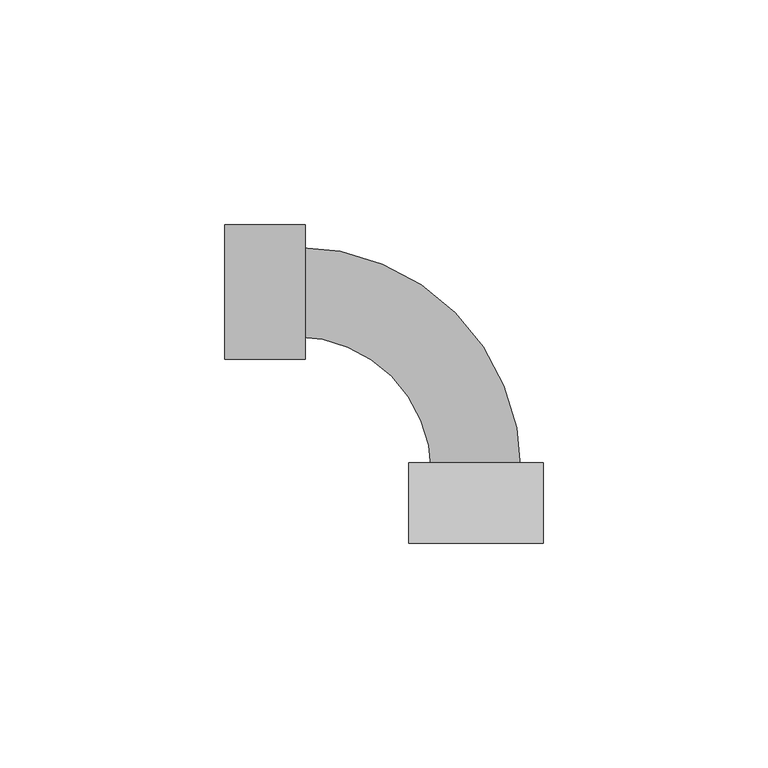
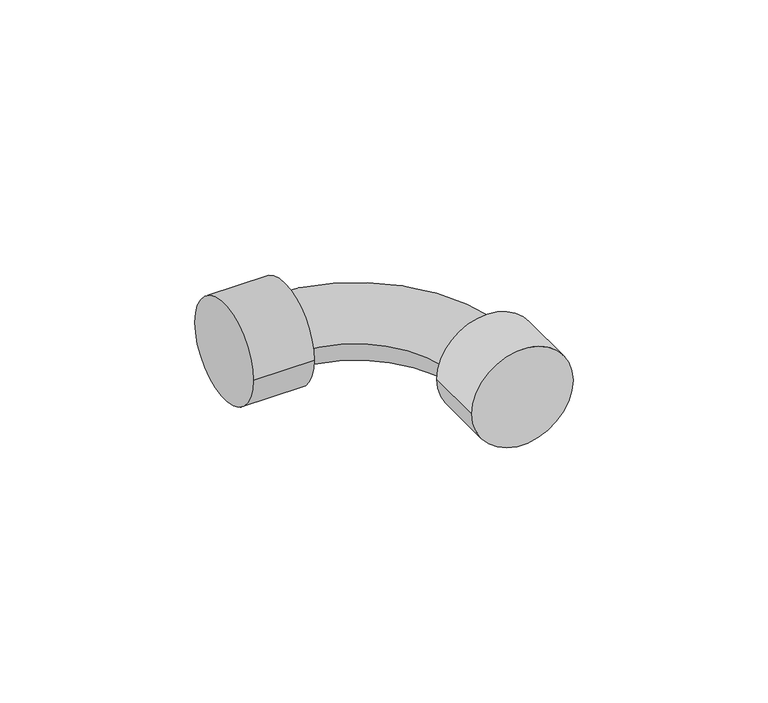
"""IFC4 building model written with IfcOpenShell, lengths in millimetres: pipe fitting geometry, 01051159 : Curvas 90º H/H."""

from ifc_helpers import new_model, si_unit, point, frame, origin, origin_2d, place, context, project, spatial, circle_curve, ellipse_curve, trimmed, segment, composite_curve, outline, extrude, source, transform, mapped, element, save
from ifc_brep_helpers import plane_surface, revolved_surface, advanced_brep


def pipe_fitting_ccc59efa(model_context):
    return source(origin(), model_context, "Body", "SolidModel", [
        extrude(outline(composite_curve([segment(trimmed(circle_curve(origin_2d(), 15.0), [point((15.0, 0.0))], [point((-15.0, 0.0))], False, "CARTESIAN"), True, "CONTINUOUS"), segment(trimmed(circle_curve(origin_2d(), 15.0), [point((-15.0, 0.0))], [point((15.0, 0.0))], False, "CARTESIAN"), True, "CONTINUOUS")], self_intersect=False)), frame((-56.0, 0.0, 0.0), z_axis=(1.0, 0.0, 0.0), x_axis=(0.0, 1.0, 0.0)), (0.0, 0.0, 1.0), 18.0),
        extrude(outline(composite_curve([segment(trimmed(circle_curve(origin_2d(), 15.0), [point((0.0, -15.0))], [point((0.0, 15.0))], False, "CARTESIAN"), True, "CONTINUOUS"), segment(trimmed(circle_curve(origin_2d(), 15.0), [point((0.0, 15.0))], [point((0.0, -15.0))], False, "CARTESIAN"), True, "CONTINUOUS")], self_intersect=False)), frame((0.0, -56.0, 0.0), z_axis=(0.0, 1.0, 0.0), x_axis=(0.0, 0.0, 1.0)), (0.0, 0.0, 1.0), 18.0),
        advanced_brep(
        [(-10.0, -40.0, 0.0), (10.0, -40.0, 0.0), (-40.0, -10.0, 0.0), (-40.0, 10.0, 0.0)],
        [
            (0, 1, circle_curve(frame((0.0, -40.0, 0.0), z_axis=(0.0, -1.0, 0.0), x_axis=(1.0, 0.0, 0.0)), 10.0)),
            (1, 0, circle_curve(frame((0.0, -40.0, 0.0), z_axis=(0.0, -1.0, 0.0), x_axis=(1.0, 0.0, 0.0)), 10.0)),
            (2, 3, circle_curve(frame((-40.0, 0.0, 0.0), z_axis=(-1.0, 0.0, 0.0), x_axis=(0.0, 1.0, 0.0)), 10.0)),
            (3, 2, circle_curve(frame((-40.0, 0.0, 0.0), z_axis=(-1.0, 0.0, 0.0), x_axis=(0.0, 1.0, 0.0)), 10.0)),
            (2, 0, circle_curve(frame((-40.0, -40.0, 0.0), z_axis=(0.0, 0.0, -1.0), x_axis=(1.0, 0.0, 0.0)), 30.0)),
            (1, 3, circle_curve(frame((-40.0, -40.0, 0.0), z_axis=(0.0, 0.0, 1.0), x_axis=(1.0, 0.0, 0.0)), 50.0)),
        ],
        [
            plane_surface(frame((0.0, -40.0, 0.0), z_axis=(0.0, -1.0, 0.0), x_axis=(0.0, 0.0, 1.0))),
            plane_surface(frame((-40.0, 0.0, 0.0), z_axis=(-1.0, 0.0, 0.0), x_axis=(0.0, 0.0, 1.0))),
            revolved_surface(trimmed(ellipse_curve(frame((0.0, -40.0, 0.0), z_axis=(0.0, 1.0, 0.0), x_axis=(1.0, 0.0, 0.0)), 10.0, 10.0), [point((-10.0, -40.0, 0.0))], [point((10.0, -40.0, 0.0))], True, "CARTESIAN"), (-40.0, -40.0, 0.0), (0.0, 0.0, -1.0)),
            revolved_surface(trimmed(ellipse_curve(frame((0.0, -40.0, 0.0), z_axis=(0.0, 1.0, 0.0), x_axis=(1.0, 0.0, 0.0)), 10.0, 10.0), [point((10.0, -40.0, 0.0))], [point((-10.0, -40.0, 0.0))], True, "CARTESIAN"), (-40.0, -40.0, 0.0), (0.0, 0.0, -1.0)),
        ],
        [
            (0, [[1, 2]]),
            (1, [[3, 4]]),
            (2, [[-3, 5, -2, 6]]),
            (3, [[-4, -6, -1, -5]]),
        ],
    ),
    ])


if __name__ == "__main__":
    model = new_model("IFC4")
    model_context = context("Model", 3, world=origin())
    ifc_project = project(units=[si_unit("LENGTHUNIT", "METRE", prefix="MILLI")], contexts=[model_context])
    site = spatial("IfcSite", under=ifc_project)
    building = spatial("IfcBuilding", under=site)
    placement = place(None, origin())
    pipe_fitting_shape = pipe_fitting_ccc59efa(model_context)
    element("IfcPipeFitting", 1, ObjectType="01051159 : Curvas 90º H/H", at=placement, inside=building, context=model_context, shape_type="MappedRepresentation", body=[
        mapped(pipe_fitting_shape, transform((0.0, 0.0, 0.0), x_axis=(1.0, 0.0, 0.0), y_axis=(0.0, 1.0, 0.0), z_axis=(0.0, 0.0, 1.0))),
    ])
    save(model, "model.ifc")
